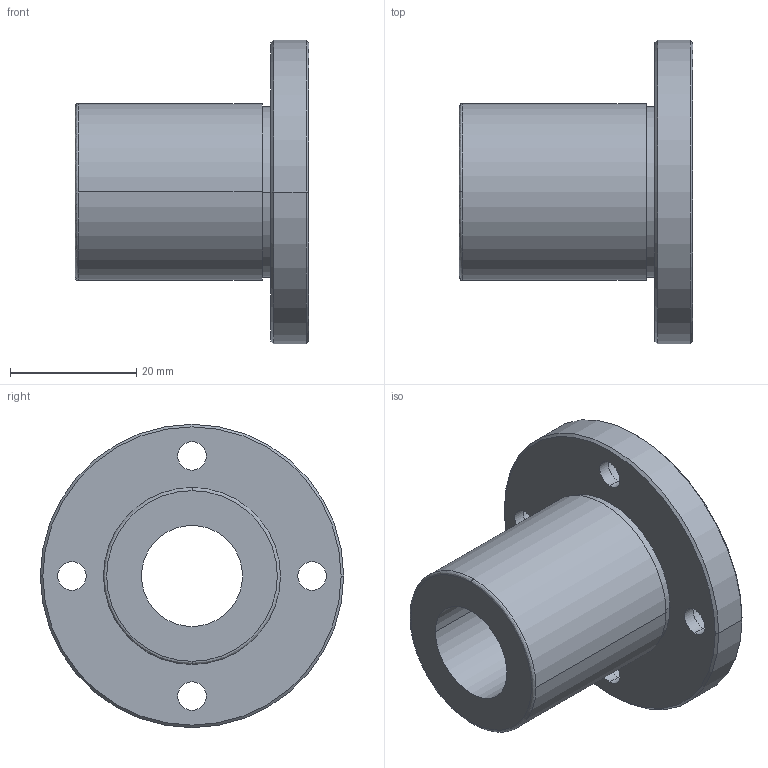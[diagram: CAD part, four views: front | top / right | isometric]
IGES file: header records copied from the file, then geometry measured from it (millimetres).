
Start section: 3D InterOp IGES (Version 21 0 1), Spatial Corp. Copyright (c) 1999-2007.
Global section: file name: NFED-16VUU.igs; native system: Spatial Corp.; preprocessor: 3D InterOp GENERIC/IGES 3.0; author: Noname; organization: Noname; date: 20220308.100830; units: millimetre
Bounding box: 37 x 48 x 48 mm (x, y, z)
Surface area: 9067 mm2 (no closed solid volume)
Topology: 0 solids, 0 shells, 38 faces, 174 edges, 174 vertices
Faces by surface type: revolution 30, extrusion 8
